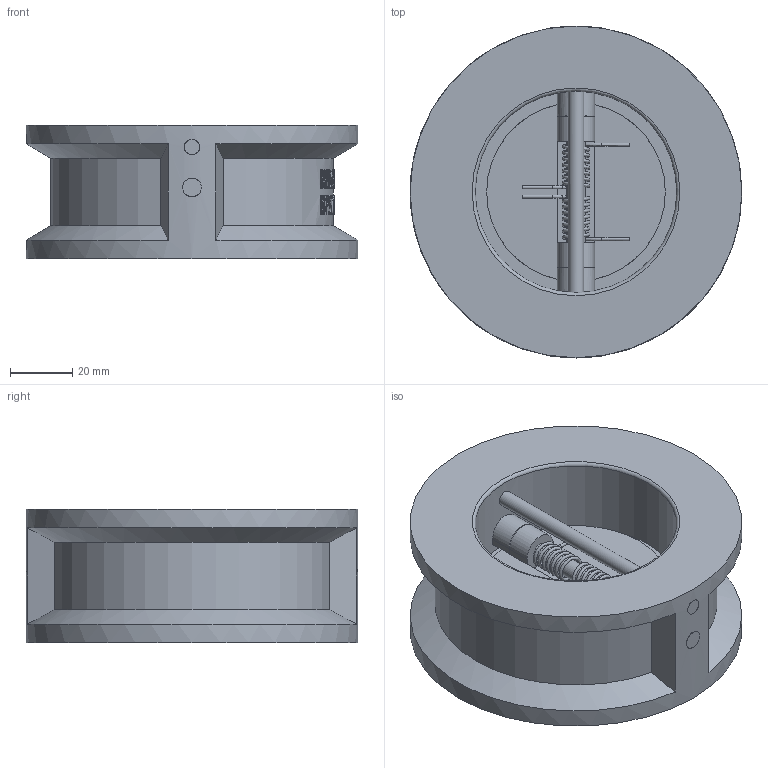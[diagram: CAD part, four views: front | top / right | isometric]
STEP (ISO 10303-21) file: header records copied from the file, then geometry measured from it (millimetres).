
FILE_DESCRIPTION( ( 'Unknown' ), '1' );
FILE_NAME( 'C:/Documents and Settings/Klaus/My Documents/Rootsi BPS 3D, Klaus/BPS 6525 double-door swing check valve/STEP/BPS6525050 double door swing check valve DN50.stp', 'Unknown', ( 'Unknown' ), ( 'Unknown' ), 'PSStep 10.1', 'Unknown', ' ' );
FILE_SCHEMA( ( 'AUTOMOTIVE_DESIGN { 1 0 10303 214 1 1 1 1 }' ) );
Length unit declared in the file: millimetre
Products named in the file (1): 1
Bounding box: 107 x 107 x 43 mm (x, y, z)
Volume: 240799.4 mm3; surface area: 45904.3 mm2
Topology: 1 solids, 1 shells, 271 faces, 651 edges, 420 vertices
Faces by surface type: plane 115, bspline 83, cylinder 60, torus 7, cone 6
Full cylindrical faces by diameter (mm): 1 x6, 5 x1, 6 x3, 57.6 x1, 65 x1, 107 x1
Entity records: 21018 total; most frequent: CARTESIAN_POINT 13789, ORIENTED_EDGE 1216, DIRECTION 616, EDGE_CURVE 608, B_SPLINE_CURVE_WITH_KNOTS 444, VERTEX_POINT 410, EDGE_LOOP 354, FACE_OUTER_BOUND 303
